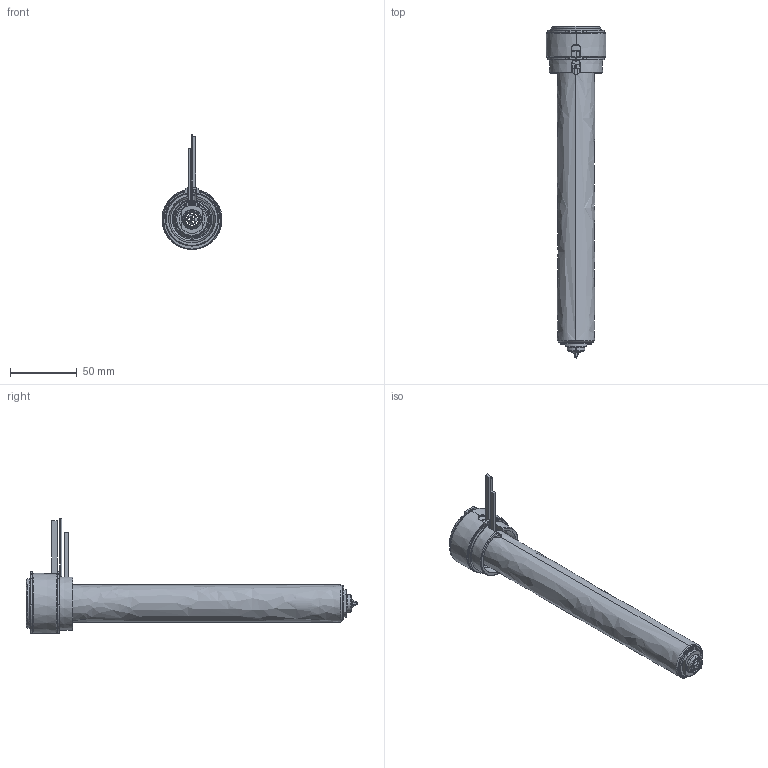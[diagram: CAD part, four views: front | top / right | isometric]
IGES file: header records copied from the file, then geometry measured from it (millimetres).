
Start section: SolidWorks IGES file using analytic representation for surfaces
Global section: file name: C:\Documents and Settings\ws-20\Desktop\TEM\UGEP4505-M-A-1 [Øf-1.17 ØC-10].IGS; native system: SolidWorks 2012; preprocessor: SolidWorks 2012; author: ws-20; date: 120424.091056; units: millimetre
Bounding box: 45 x 249.05 x 86.15 mm (x, y, z)
Surface area: 82545 mm2 (no closed solid volume)
Topology: 0 solids, 0 shells, 181 faces, 3429 edges, 3429 vertices
Faces by surface type: revolution 112, bspline 69
